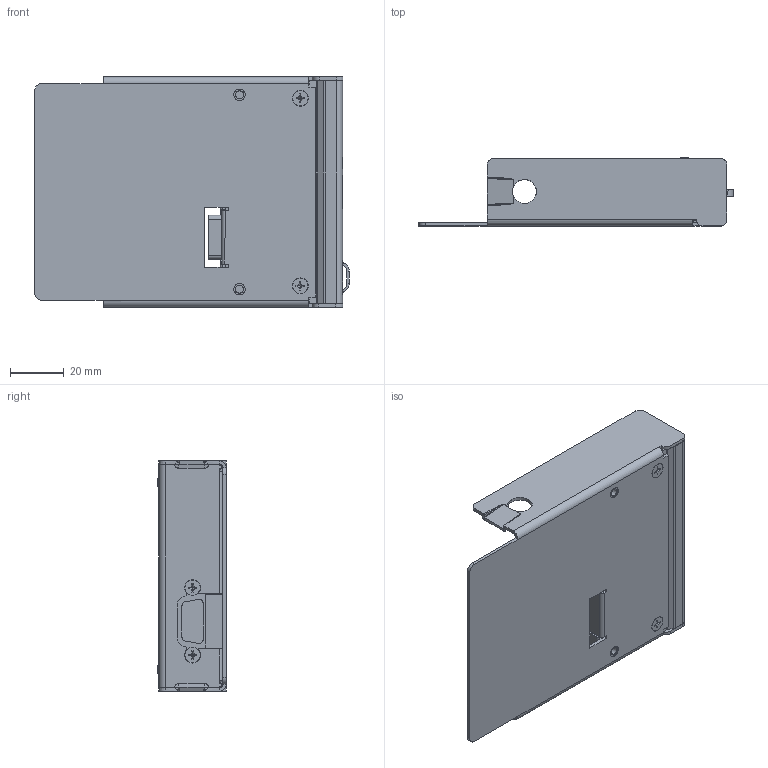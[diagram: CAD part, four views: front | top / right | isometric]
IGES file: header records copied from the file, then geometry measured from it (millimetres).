
Start section:  PTC IGES file: cu_usb_916x.igs
Global section: file name: cu_usb_916x.igs; native system: Pro/ENGINEER by Parametric Technology Corporation; preprocessor: 2006300; author: chrisj; organization: Unknown; date: 20080313.102535; units: inch
Bounding box: 116.92 x 25.41 x 85.7 mm (x, y, z)
Surface area: 51599.2 mm2 (no closed solid volume)
Topology: 0 solids, 0 shells, 583 faces, 2794 edges, 2714 vertices
Faces by surface type: bspline 428, revolution 155
